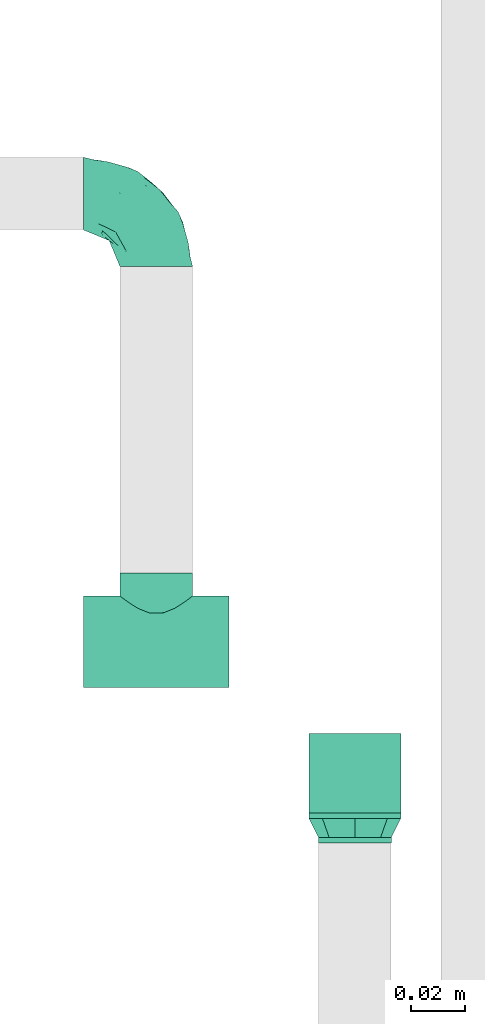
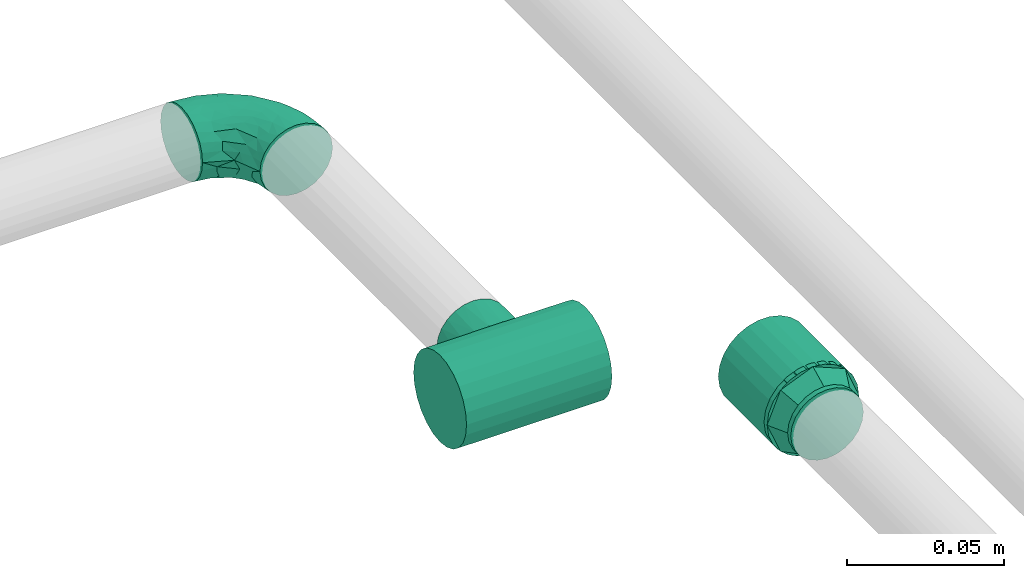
# One storey, part 7 of 13: 3 flow fittings, 1 flow segment.
"""IFC2X3 building model written with IfcOpenShell, lengths in millimetres."""

from ifc_helpers import new_model, entity, si_unit, converted_unit, derived_unit, direction, frame, origin_with_axes, origin_2d_with_axis, place, context, subcontext, project, spatial, hollow_circle, extrude, open_shell, surface_model, source, transform, mapped, type_object, element, save


model = new_model("IFC2X3")

# Units and contexts
model_context = context("Model", 3, precision=0.01, world=frame((0.0, 4.29681676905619e-09, 0.0)), true_north=direction((4.01073788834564e-13, 1.0)))
plan_context = context("Plan", 3, precision=0.01, world=frame((0.0, 4.29681676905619e-09, 0.0)), true_north=direction((4.01073788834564e-13, 1.0)))
body_context = subcontext(model_context, "Body", "Model", "MODEL_VIEW")
ifc_project = project(units=[converted_unit("PLANEANGLEUNIT", "DEGREE", entity("IfcPositiveLengthMeasure", 0.0174532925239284), si_unit("PLANEANGLEUNIT", "RADIAN"), dimensions=[0, 0, 0, 0, 0, 0, 0]), si_unit("AREAUNIT", "SQUARE_METRE"), si_unit("LENGTHUNIT", "METRE", prefix="MILLI"), si_unit("MASSUNIT", "GRAM", prefix="KILO"), si_unit("POWERUNIT", "WATT"), si_unit("PRESSUREUNIT", "PASCAL", prefix="KILO"), si_unit("FORCEUNIT", "NEWTON", prefix="KILO"), si_unit("ELECTRICVOLTAGEUNIT", "VOLT"), si_unit("ELECTRICCURRENTUNIT", "AMPERE"), si_unit("THERMODYNAMICTEMPERATUREUNIT", "DEGREE_CELSIUS"), si_unit("TIMEUNIT", "SECOND"), si_unit("VOLUMEUNIT", "CUBIC_METRE"), derived_unit("LINEARVELOCITYUNIT", [(si_unit("LENGTHUNIT", "METRE"), 1), (si_unit("TIMEUNIT", "SECOND"), -1)]), derived_unit("VOLUMETRICFLOWRATEUNIT", [(si_unit("VOLUMEUNIT", "CUBIC_METRE"), 1), (si_unit("TIMEUNIT", "SECOND"), -1)]), derived_unit("THERMALTRANSMITTANCEUNIT", [(si_unit("POWERUNIT", "WATT"), 1), (si_unit("THERMODYNAMICTEMPERATUREUNIT", "KELVIN"), -1), (si_unit("AREAUNIT", "SQUARE_METRE"), -1)]), derived_unit("SOUNDPRESSUREUNIT", [(si_unit("PRESSUREUNIT", "PASCAL"), 1)])], contexts=[model_context, plan_context])

# Site, building, storey
site_placement = place(None, frame((0.0, -4.29681676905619e-09, 0.0), z_axis=(0.0, 0.0, 1.0), x_axis=(1.0, 0.0, 0.0)))
site = spatial("IfcSite", under=ifc_project, at=site_placement, Name="ENGM", CompositionType="ELEMENT")
building_placement = place(site_placement, frame((0.0, 4.29681676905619e-09, 0.0), z_axis=(0.0, 0.0, 1.0), x_axis=(1.0, 0.0, 0.0)))
building = spatial("IfcBuilding", under=site, at=building_placement, Name="TI", CompositionType="ELEMENT")
storey_placement = place(building_placement, frame((0.0, 0.0, 210900.0), z_axis=(0.0, 0.0, 1.0), x_axis=(1.0, 0.0, 0.0)))
storey = spatial("IfcBuildingStorey", under=building, at=storey_placement, Name="Nivå F", CompositionType="ELEMENT", Elevation=210900.0)

# Flow fittings
pipe_fitting_type_1 = type_object("IfcPipeFittingType", Name="magi_pipe_fe_reducer_centric_short_NOR", PredefinedType="TRANSITION")
shared_shape_1 = source(origin_with_axes(), body_context, "Body", "SurfaceModel", [
    surface_model("IfcShellBasedSurfaceModel", [(-2.0, 11.9501, 11.9501), (-2.0, 0.0, 16.9), (-2.0, 4.37404, 16.32415), (-2.0, 8.45, 14.63583), (-2.0, 14.63583, 8.45), (-2.0, 16.32415, 4.37404), (-2.0, -16.32415, 4.37404), (-2.0, -8.45, 14.63583), (-2.0, -14.63583, 8.45), (-2.0, -11.9501, 11.9501), (-2.0, -4.37404, 16.32415), (-2.0, -16.32415, -4.37404), (-2.0, -16.9, 0.0), (-2.0, -8.45, -14.63583), (-2.0, 16.32415, -4.37404), (-2.0, 11.9501, -11.9501), (-2.0, 14.63583, -8.45), (-2.0, 8.45, -14.63583), (-2.0, 4.37404, -16.32415), (-2.0, 0.0, -16.9), (-2.0, -11.9501, -11.9501), (-2.0, -14.63583, -8.45), (-2.0, -4.37404, -16.32415), (-2.0, 16.9, 0.0), (0.0, 4.37404, -16.32415), (0.0, 8.45, -14.63583), (0.0, 11.9501, -11.9501), (0.0, 0.0, -16.9), (0.0, 16.32415, -4.37404), (0.0, 16.32415, 4.37404), (0.0, 14.63583, -8.45), (0.0, -8.45, -14.63583), (0.0, -4.37404, -16.32415), (0.0, -11.9501, -11.9501), (0.0, -16.32415, -4.37404), (0.0, -14.63583, -8.45), (0.0, -16.32415, 4.37404), (0.0, 16.9, 0.0), (0.0, 14.63583, 8.45), (0.0, 11.9501, 11.9501), (0.0, 4.37404, 16.32415), (0.0, 8.45, 14.63583), (0.0, 0.0, 16.9), (0.0, -14.63583, 8.45), (0.0, -16.9, 0.0), (0.0, -8.45, 14.63583), (0.0, -11.9501, 11.9501), (0.0, -4.37404, 16.32415), (9.0, 12.94341, -3.46818), (9.0, 3.46818, -12.94341), (9.0, 6.7, -11.60474), (9.0, 9.47523, -9.47523), (9.0, -6.7, -11.60474), (9.0, -12.94341, 3.46818), (9.0, 11.60474, -6.7), (9.0, 0.0, -13.4), (9.0, -3.46818, -12.94341), (9.0, -9.47523, -9.47523), (9.0, -12.94341, -3.46818), (9.0, -11.60474, -6.7), (9.0, 13.4, 0.0), (9.0, 12.94341, 3.46818), (9.0, 11.60474, 6.7), (9.0, 9.47523, 9.47523), (9.0, 0.0, 13.4), (9.0, 6.7, 11.60474), (9.0, 3.46818, 12.94341), (9.0, -6.7, 11.60474), (9.0, -9.47523, 9.47523), (9.0, -11.60474, 6.7), (9.0, -13.4, 0.0), (9.0, -3.46818, 12.94341), (7.0, 0.0, 13.4), (7.0, 3.46818, 12.94341), (7.0, 6.7, 11.60474), (7.0, -3.46818, 12.94341), (7.0, 9.47523, 9.47523), (7.0, 11.60474, 6.7), (7.0, 12.94341, 3.46818), (7.0, -12.94341, 3.46818), (7.0, -9.47523, 9.47523), (7.0, -6.7, 11.60474), (7.0, -11.60474, 6.7), (7.0, -12.94341, -3.46818), (7.0, -13.4, 0.0), (7.0, -6.7, -11.60474), (7.0, 12.94341, -3.46818), (7.0, 9.47523, -9.47523), (7.0, 11.60474, -6.7), (7.0, 6.7, -11.60474), (7.0, 3.46818, -12.94341), (7.0, -9.47523, -9.47523), (7.0, -11.60474, -6.7), (7.0, 0.0, -13.4), (7.0, -3.46818, -12.94341), (7.0, 13.4, 0.0), (0.0, 13.18758, -8.96258), (0.0, 14.42505, -5.97505), (7.0, 10.491, -7.02294), (7.0, 11.50677, -4.57065), (0.0, 15.66253, -2.98753), (7.0, 12.45339, -2.28533), (0.0, 2.98753, -15.66253), (0.0, 5.97505, -14.42505), (0.0, 8.96258, -13.18758), (7.0, 4.73762, -11.43761), (7.0, 7.10642, -10.45642), (7.0, 2.36881, -12.41881), (0.0, -14.42505, -5.97505), (7.0, -11.43761, -4.73762), (7.0, -12.41881, -2.36881), (7.0, -2.36881, -12.41881), (7.0, -10.45642, -7.10642), (0.0, -15.70614, -2.88224), (0.0, -13.18758, -8.96258), (7.0, -4.73762, -11.43761), (7.0, -7.10642, -10.45642), (0.0, -5.97505, -14.42505), (0.0, -2.98753, -15.66253), (0.0, -8.96258, -13.18758), (0.0, -13.18758, 8.96258), (0.0, -14.42505, 5.97505), (7.0, -10.491, 7.02294), (7.0, -11.50677, 4.57065), (0.0, -15.66253, 2.98753), (7.0, -12.45339, 2.28533), (0.0, -2.98753, 15.66253), (0.0, -5.97505, 14.42505), (0.0, -8.96258, 13.18758), (7.0, -4.73762, 11.43761), (7.0, -7.10642, 10.45642), (7.0, -2.36881, 12.41881), (0.0, 14.42505, 5.97505), (7.0, 11.43761, 4.73762), (7.0, 12.41881, 2.36881), (7.0, 2.36881, 12.41881), (7.0, 10.45642, 7.10642), (0.0, 15.70614, 2.88224), (0.0, 13.18758, 8.96258), (7.0, 4.73762, 11.43761), (7.0, 7.10642, 10.45642), (0.0, 5.97505, 14.42505), (0.0, 2.98753, 15.66253), (0.0, 8.96258, 13.18758)], [open_shell([[[0, 1, 2]], [[0, 2, 3]], [[0, 4, 5]], [[0, 5, 1]], [[1, 5, 6]], [[7, 8, 9]], [[7, 10, 1]], [[8, 7, 1]], [[1, 6, 8]], [[6, 11, 12]], [[6, 5, 13]], [[5, 14, 15]], [[15, 14, 16]], [[15, 17, 18]], [[13, 5, 15]], [[19, 15, 18]], [[11, 20, 21]], [[20, 11, 13]], [[13, 19, 22]], [[11, 6, 13]], [[15, 19, 13]], [[5, 23, 14]], [[24, 25, 26]], [[27, 24, 26]], [[26, 28, 29]], [[28, 26, 30]], [[26, 29, 31]], [[27, 31, 32]], [[27, 26, 31]], [[33, 34, 35]], [[34, 33, 31]], [[31, 36, 34]], [[29, 28, 37]], [[29, 38, 39]], [[29, 39, 40]], [[40, 36, 31]], [[40, 39, 41]], [[36, 40, 42]], [[42, 43, 36]], [[44, 34, 36]], [[43, 45, 46]], [[43, 42, 45]], [[45, 42, 47]], [[31, 29, 40]], [[11, 34, 12]], [[21, 35, 11]], [[31, 20, 13]], [[21, 20, 33]], [[32, 13, 22]], [[11, 35, 34]], [[34, 44, 12]], [[32, 31, 13]], [[33, 20, 31]], [[33, 35, 21]], [[27, 32, 22]], [[22, 19, 27]], [[18, 24, 19]], [[17, 25, 18]], [[30, 15, 16]], [[17, 15, 26]], [[28, 16, 14]], [[17, 26, 25]], [[25, 24, 18]], [[37, 28, 14]], [[30, 16, 28]], [[30, 26, 15]], [[23, 37, 14]], [[19, 24, 27]], [[5, 29, 23]], [[4, 38, 5]], [[41, 0, 3]], [[4, 0, 39]], [[40, 3, 2]], [[5, 38, 29]], [[29, 37, 23]], [[40, 41, 3]], [[39, 0, 41]], [[39, 38, 4]], [[42, 40, 2]], [[2, 1, 42]], [[10, 47, 1]], [[7, 45, 10]], [[43, 9, 8]], [[7, 9, 46]], [[36, 8, 6]], [[7, 46, 45]], [[45, 47, 10]], [[44, 36, 6]], [[43, 8, 36]], [[43, 46, 9]], [[12, 44, 6]], [[1, 47, 42]], [[33, 44, 27]], [[48, 49, 50]], [[48, 50, 51]], [[52, 49, 53]], [[48, 51, 54]], [[49, 48, 53]], [[55, 52, 56]], [[55, 49, 52]], [[57, 58, 59]], [[53, 58, 57]], [[57, 52, 53]], [[48, 60, 53]], [[61, 62, 63]], [[61, 63, 64]], [[65, 66, 64]], [[65, 64, 63]], [[61, 64, 67]], [[53, 68, 69]], [[70, 58, 53]], [[53, 67, 68]], [[53, 61, 67]], [[71, 67, 64]], [[53, 60, 61]], [[72, 73, 74]], [[75, 72, 74]], [[76, 77, 78]], [[74, 76, 75]], [[78, 79, 76]], [[75, 80, 81]], [[80, 75, 79]], [[80, 79, 82]], [[75, 76, 79]], [[79, 83, 84]], [[79, 78, 85]], [[86, 87, 78]], [[87, 86, 88]], [[89, 85, 78]], [[78, 87, 89]], [[85, 89, 90]], [[83, 91, 92]], [[83, 79, 91]], [[85, 93, 94]], [[79, 85, 91]], [[90, 93, 85]], [[95, 86, 78]], [[83, 58, 84]], [[92, 59, 83]], [[52, 91, 85]], [[92, 91, 57]], [[56, 85, 94]], [[83, 59, 58]], [[58, 70, 84]], [[56, 52, 85]], [[57, 91, 52]], [[57, 59, 92]], [[55, 56, 94]], [[94, 93, 55]], [[90, 49, 93]], [[89, 50, 90]], [[54, 87, 88]], [[89, 87, 51]], [[48, 88, 86]], [[89, 51, 50]], [[50, 49, 90]], [[60, 48, 86]], [[54, 88, 48]], [[54, 51, 87]], [[95, 60, 86]], [[93, 49, 55]], [[78, 61, 95]], [[77, 62, 78]], [[65, 76, 74]], [[77, 76, 63]], [[66, 74, 73]], [[78, 62, 61]], [[61, 60, 95]], [[66, 65, 74]], [[63, 76, 65]], [[63, 62, 77]], [[64, 66, 73]], [[73, 72, 64]], [[75, 71, 72]], [[81, 67, 75]], [[69, 80, 82]], [[81, 80, 68]], [[53, 82, 79]], [[81, 68, 67]], [[67, 71, 75]], [[70, 53, 79]], [[69, 82, 53]], [[69, 68, 80]], [[84, 70, 79]], [[72, 71, 64]], [[72, 80, 95]], [[95, 76, 72]], [[80, 91, 95]], [[91, 93, 95]], [[87, 95, 93]], [[80, 84, 91]], [[42, 39, 46]], [[44, 46, 39]], [[39, 27, 44]], [[26, 27, 39]], [[39, 37, 26]], [[96, 97, 98]], [[99, 100, 101]], [[37, 95, 101]], [[93, 27, 102]], [[103, 104, 105]], [[104, 26, 106]], [[87, 26, 96]], [[103, 107, 102]], [[108, 109, 110]], [[37, 101, 100]], [[27, 93, 111]], [[112, 33, 91]], [[110, 84, 113]], [[109, 114, 112]], [[33, 112, 114]], [[115, 116, 117]], [[115, 118, 111]], [[93, 102, 107]], [[116, 91, 119]], [[27, 111, 118]], [[97, 99, 98]], [[87, 96, 98]], [[100, 99, 97]], [[26, 87, 106]], [[105, 104, 106]], [[107, 103, 105]], [[84, 44, 113]], [[108, 110, 113]], [[114, 109, 108]], [[91, 33, 119]], [[117, 116, 119]], [[118, 115, 117]], [[120, 121, 122]], [[123, 124, 125]], [[44, 84, 125]], [[72, 42, 126]], [[127, 128, 129]], [[128, 46, 130]], [[80, 46, 120]], [[127, 131, 126]], [[132, 133, 134]], [[44, 125, 124]], [[42, 72, 135]], [[136, 39, 76]], [[134, 95, 137]], [[133, 138, 136]], [[39, 136, 138]], [[139, 140, 141]], [[139, 142, 135]], [[72, 126, 131]], [[140, 76, 143]], [[42, 135, 142]], [[121, 123, 122]], [[80, 120, 122]], [[124, 123, 121]], [[46, 80, 130]], [[129, 128, 130]], [[131, 127, 129]], [[95, 37, 137]], [[132, 134, 137]], [[138, 133, 132]], [[76, 39, 143]], [[141, 140, 143]], [[142, 139, 141]]])]),
])
flow_fitting_1_placement = place(storey_placement, frame((598816.17776, 570658.24678, -48.6000000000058), z_axis=(0.0, 0.0, 1.0), x_axis=(0.0, -1.0, 0.0)))
element("IfcFlowFitting", 1, at=flow_fitting_1_placement, inside=storey, type_object=pipe_fitting_type_1, Name="magi_pipe_fe_reducer_centric_short_NOR", context=body_context, shape_type="MappedRepresentation", body=[
    mapped(shared_shape_1, transform((0.0, 0.0, 0.0), scale=1.0)),
])
pipe_fitting_type_2 = type_object("IfcPipeFittingType", Name="magi_pipe_fe_tee_centric_90_NOR", PredefinedType="JUNCTION")
shared_shape_2 = source(origin_with_axes(), body_context, "Body", "SurfaceModel", [
    surface_model("IfcShellBasedSurfaceModel", [(-26.8, -14.63583, -8.45), (-26.8, -16.32415, 4.37404), (-26.8, 0.0, -16.9), (-26.8, 8.45, -14.63583), (-26.8, 4.37404, -16.32415), (-26.8, 14.63583, -8.45), (-26.8, 16.32415, -4.37404), (-26.8, 11.9501, -11.9501), (-26.8, 8.45, 14.63583), (-26.8, -4.37404, -16.32415), (-26.8, -8.45, -14.63583), (-26.8, -11.9501, -11.9501), (-26.8, -16.32415, -4.37404), (-26.8, -16.9, 0.0), (-26.8, 16.32415, 4.37404), (-26.8, 14.63583, 8.45), (-26.8, -8.45, 14.63583), (-26.8, 11.9501, 11.9501), (-26.8, 4.37404, 16.32415), (-26.8, 0.0, 16.9), (-26.8, -11.9501, 11.9501), (-26.8, -14.63583, 8.45), (-26.8, -4.37404, 16.32415), (-26.8, 16.9, 0.0), (26.8, 4.37404, -16.32415), (26.8, -16.32415, -4.37404), (26.8, 0.0, -16.9), (26.8, 14.63583, -8.45), (26.8, 8.45, -14.63583), (26.8, 8.45, 14.63583), (26.8, 11.9501, -11.9501), (26.8, -8.45, -14.63583), (26.8, -4.37404, -16.32415), (26.8, -11.9501, -11.9501), (26.8, -14.63583, -8.45), (26.8, -16.9, 0.0), (26.8, 16.32415, -4.37404), (26.8, 16.32415, 4.37404), (26.8, 14.63583, 8.45), (26.8, -16.32415, 4.37404), (26.8, 11.9501, 11.9501), (26.8, -8.45, 14.63583), (26.8, 4.37404, 16.32415), (26.8, -14.63583, 8.45), (26.8, -11.9501, 11.9501), (26.8, 0.0, 16.9), (26.8, -4.37404, 16.32415), (26.8, 16.9, 0.0), (13.4, -16.9, 0.0), (12.51826, -16.20978, 4.7805), (10.16237, -14.46802, 8.7342), (6.75997, -12.31857, 11.56991), (2.4399, -10.58315, 13.176), (-13.4, -16.9, 0.0), (-12.51876, -16.21016, 4.7792), (-6.76097, -12.31912, 11.56932), (-2.44418, -10.58414, 13.1752), (-10.16446, -14.46949, 8.73177), (2.4399, -10.58315, -13.176), (10.16237, -14.46802, -8.7342), (6.75997, -12.31857, -11.56991), (12.51826, -16.20978, -4.7805), (-2.44418, -10.58414, -13.1752), (-6.76097, -12.31912, -11.56932), (-10.16446, -14.46949, -8.73177), (-12.51876, -16.21016, -4.7792), (9.47523, -25.35, -9.47523), (0.0, -25.35, -13.4), (3.46818, -25.35, -12.94341), (6.7, -25.35, -11.60474), (11.60474, -25.35, -6.7), (12.94341, -25.35, -3.46818), (-12.94341, -25.35, 3.46818), (-12.94341, -25.35, -3.46818), (-3.46818, -25.35, -12.94341), (-9.47523, -25.35, -9.47523), (-6.7, -25.35, -11.60474), (-11.60474, -25.35, -6.7), (-13.4, -25.35, 0.0), (13.4, -25.35, 0.0), (12.94341, -25.35, 3.46818), (11.60474, -25.35, 6.7), (6.7, -25.35, 11.60474), (9.47523, -25.35, 9.47523), (3.46818, -25.35, 12.94341), (-9.47523, -25.35, 9.47523), (-11.60474, -25.35, 6.7), (-6.7, -25.35, 11.60474), (-3.46818, -25.35, 12.94341), (0.0, -25.35, 13.4), (-12.95938, -16.55508, 2.3896), (12.95913, -16.55489, 2.39025), (-0.00214, -10.58364, 13.1756), (12.95913, -16.55489, -2.39025), (-0.00214, -10.58364, -13.1756), (-12.95938, -16.55508, -2.3896)], [open_shell([[[0, 1, 2]], [[3, 4, 5]], [[4, 6, 5]], [[7, 3, 5]], [[8, 4, 2]], [[9, 10, 2]], [[10, 11, 2]], [[12, 13, 0]], [[0, 2, 11]], [[13, 1, 0]], [[8, 6, 4]], [[8, 14, 6]], [[15, 14, 8]], [[2, 16, 8]], [[17, 15, 8]], [[18, 8, 19]], [[20, 16, 21]], [[1, 21, 16]], [[22, 19, 16]], [[16, 2, 1]], [[16, 19, 8]], [[6, 14, 23]], [[24, 25, 26]], [[27, 24, 28]], [[25, 24, 29]], [[27, 28, 30]], [[29, 24, 27]], [[26, 31, 32]], [[26, 33, 31]], [[26, 25, 34]], [[34, 33, 26]], [[35, 25, 29]], [[27, 36, 37]], [[27, 37, 29]], [[29, 37, 38]], [[29, 39, 35]], [[29, 38, 40]], [[41, 29, 42]], [[43, 41, 44]], [[41, 43, 39]], [[41, 45, 46]], [[41, 39, 29]], [[42, 45, 41]], [[36, 47, 37]], [[35, 39, 48]], [[49, 48, 39]], [[39, 43, 49]], [[43, 44, 50]], [[51, 50, 44]], [[52, 51, 44]], [[44, 41, 52]], [[43, 50, 49]], [[53, 54, 1]], [[1, 13, 53]], [[54, 21, 1]], [[55, 56, 20]], [[21, 57, 20]], [[57, 21, 54]], [[20, 57, 55]], [[56, 16, 20]], [[52, 16, 56]], [[19, 46, 45]], [[22, 41, 46]], [[18, 45, 42]], [[38, 37, 14]], [[17, 29, 40]], [[15, 40, 38]], [[42, 29, 8]], [[23, 37, 47]], [[16, 41, 22]], [[22, 46, 19]], [[18, 19, 45]], [[42, 8, 18]], [[8, 29, 17]], [[15, 17, 40]], [[14, 15, 38]], [[37, 23, 14]], [[41, 16, 52]], [[23, 47, 36]], [[27, 30, 7]], [[6, 36, 27]], [[26, 32, 9]], [[4, 28, 24]], [[26, 2, 24]], [[30, 28, 3]], [[10, 32, 31]], [[5, 6, 27]], [[23, 36, 6]], [[27, 7, 5]], [[7, 30, 3]], [[3, 28, 4]], [[2, 4, 24]], [[9, 2, 26]], [[32, 10, 9]], [[31, 58, 10]], [[33, 59, 60]], [[59, 33, 34]], [[60, 58, 33]], [[33, 58, 31]], [[25, 35, 48]], [[25, 61, 34]], [[61, 25, 48]], [[34, 61, 59]], [[62, 63, 11]], [[11, 64, 0]], [[64, 11, 63]], [[62, 11, 10]], [[65, 53, 12]], [[65, 12, 0]], [[12, 53, 13]], [[65, 0, 64]], [[58, 62, 10]], [[66, 67, 68]], [[66, 68, 69]], [[66, 70, 71]], [[67, 66, 72]], [[72, 73, 67]], [[74, 75, 76]], [[74, 67, 75]], [[77, 75, 67]], [[67, 73, 77]], [[73, 72, 78]], [[72, 66, 71]], [[79, 80, 81]], [[81, 82, 71]], [[82, 72, 71]], [[82, 81, 83]], [[72, 82, 84]], [[72, 85, 86]], [[85, 72, 87]], [[72, 88, 87]], [[88, 72, 89]], [[72, 84, 89]], [[71, 79, 81]], [[72, 90, 78]], [[57, 86, 85]], [[72, 86, 54]], [[85, 87, 55]], [[72, 54, 90]], [[90, 53, 78]], [[54, 86, 57]], [[91, 49, 80]], [[55, 88, 56]], [[55, 57, 85]], [[89, 52, 92]], [[55, 87, 88]], [[52, 89, 84]], [[82, 51, 84]], [[50, 83, 81]], [[82, 83, 51]], [[49, 81, 80]], [[83, 50, 51]], [[51, 52, 84]], [[79, 91, 80]], [[49, 50, 81]], [[91, 79, 48]], [[89, 56, 88]], [[92, 56, 89]], [[71, 93, 79]], [[59, 70, 66]], [[71, 70, 61]], [[66, 69, 60]], [[93, 48, 79]], [[61, 70, 59]], [[60, 68, 58]], [[60, 59, 66]], [[67, 62, 94]], [[60, 69, 68]], [[67, 74, 62]], [[95, 78, 53]], [[63, 74, 76]], [[65, 77, 73]], [[95, 65, 73]], [[67, 58, 68]], [[71, 61, 93]], [[74, 63, 62]], [[63, 76, 75]], [[63, 75, 64]], [[64, 75, 77]], [[64, 77, 65]], [[78, 95, 73]], [[94, 58, 67]]])]),
])
flow_fitting_2_placement = place(storey_placement, frame((598743.07776, 570723.24678, -48.6000000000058), z_axis=(0.0, 0.0, 1.0), x_axis=(-1.0, 0.0, 0.0)))
element("IfcFlowFitting", 2, at=flow_fitting_2_placement, inside=storey, type_object=pipe_fitting_type_2, Name="magi_pipe_fe_tee_centric_90_NOR", context=body_context, shape_type="MappedRepresentation", body=[
    mapped(shared_shape_2, transform((0.0, 0.0, 0.0), scale=1.0)),
])
pipe_fitting_type_3 = type_object("IfcPipeFittingType", Name="magi_pipe_fe_elbow_short_001", PredefinedType="BEND")
shared_shape_3 = source(origin_with_axes(), body_context, "Body", "SurfaceModel", [
    surface_model("IfcShellBasedSurfaceModel", [(-26.8, 3.46818, -12.94341), (-26.8, 0.0, -13.4), (-26.8, 9.47523, -9.47523), (-26.8, 6.7, -11.60474), (-26.8, 12.94341, -3.46818), (-26.8, 11.60474, -6.7), (-26.8, -6.7, 11.60474), (-26.8, -12.94341, -3.46818), (-26.8, -9.47523, -9.47523), (-26.8, -6.7, -11.60474), (-26.8, -3.46818, -12.94341), (-26.8, -11.60474, -6.7), (-26.8, -13.4, 0.0), (-26.8, 9.47523, 9.47523), (-26.8, 12.94341, 3.46818), (-26.8, 11.60474, 6.7), (-26.8, 3.46818, 12.94341), (-26.8, 6.7, 11.60474), (-26.8, -11.60474, 6.7), (-26.8, -9.47523, 9.47523), (-26.8, -12.94341, 3.46818), (-26.8, -3.46818, 12.94341), (-26.8, 0.0, 13.4), (-26.8, 13.4, 0.0), (-9.47523, 26.8, -9.47523), (0.0, 26.8, -13.4), (-3.46818, 26.8, -12.94341), (-6.7, 26.8, -11.60474), (-11.60474, 26.8, -6.7), (-12.94341, 26.8, -3.46818), (12.94341, 26.8, -3.46818), (6.7, 26.8, 11.60474), (6.7, 26.8, -11.60474), (9.47523, 26.8, -9.47523), (3.46818, 26.8, -12.94341), (11.60474, 26.8, -6.7), (13.4, 26.8, 0.0), (-12.94341, 26.8, 3.46818), (-9.47523, 26.8, 9.47523), (-11.60474, 26.8, 6.7), (-6.7, 26.8, 11.60474), (-3.46818, 26.8, 12.94341), (12.94341, 26.8, 3.46818), (9.47523, 26.8, 9.47523), (11.60474, 26.8, 6.7), (3.46818, 26.8, 12.94341), (0.0, 26.8, 13.4), (-13.4, 26.8, 0.0), (-17.94383, -11.72186, 4.19396), (-19.61933, -10.40522, 7.51874), (-14.00394, -9.97131, 0.0), (-10.88146, -9.75217, 2.96415), (5.6402, 4.14256, 4.06277), (2.9355, 3.86758, 7.99817), (-0.16552, -0.70254, 6.90229), (-11.69279, -8.47867, 6.74741), (-3.60975, -5.23517, 4.12915), (-20.40197, -11.68565, 0.0), (6.07727, 10.7767, 9.16668), (7.71917, 17.5318, 9.98024), (3.23022, 10.34855, 11.14395), (-17.5318, -7.71917, 9.98024), (-19.6814, -5.06542, 12.05518), (-20.47091, -1.77513, 13.17083), (-18.76435, 2.05404, 13.37716), (-10.34855, -3.23022, 11.14395), (-13.34095, -0.12025, 12.98799), (-20.6562, 5.25542, 12.65822), (-21.01515, 11.15223, 8.78653), (-19.1981, 14.0055, 6.12639), (-23.45804, 12.58298, 5.55254), (-13.79572, 19.62699, 6.0655), (-4.65712, 13.17755, 13.37596), (-9.92557, 9.92557, 13.07441), (-7.97904, 5.85569, 13.33097), (-14.12498, 14.96497, 9.49183), (-23.18377, 8.11481, 10.91864), (-3.49778, 8.97497, 13.15743), (-6.65819, 2.45826, 12.5129), (-1.36893, 7.23965, 12.31444), (-22.3163, 13.71444, 3.37662), (-20.76788, 15.89859, 0.0), (-5.00198, 23.11411, 12.55149), (-1.83653, 20.04451, 13.36709), (5.06542, 19.6814, 12.05518), (-4.60225, -3.19632, 8.30444), (-2.39362, 2.39362, 10.95564), (1.77513, 20.47091, 13.17083), (10.40522, 19.61933, 7.51874), (8.47867, 11.69279, 6.74741), (11.72186, 17.94383, 4.19396), (-10.7767, -6.07727, 9.16668), (-14.71477, 20.20527, 3.11661), (-18.32912, 15.92283, 3.19527), (9.75217, 10.88146, 2.96415), (9.97131, 14.00394, 0.0), (11.68565, 20.40197, 0.0), (-17.32477, 17.32477, 0.0), (8.01422, 6.7, 0.0), (-11.0099, 17.80242, 10.25412), (-8.46783, 20.75346, 11.10693), (-11.06207, 21.36651, 8.74797), (-10.13559, 14.48567, 11.94159), (-5.79525, 18.15733, 12.76163), (-14.31139, 12.02432, 11.13575), (-6.7, -8.01422, 0.0), (-14.72492, 5.73985, 13.1602), (-13.14892, 3.28357, 13.39428), (-14.24576, 9.09225, 12.39421), (-7.80572, 13.90987, 12.83655), (0.12025, 13.34095, 12.98799), (-18.45241, 9.09615, 11.28418), (-1.02036, 0.84565, 9.15855), (-3.66591, -4.13183, 6.30134), (-3.02144, -4.33567, 0.0), (1.56761, -1.1228, 3.23127), (-15.89859, 20.76788, 0.0), (4.33567, 3.02144, 0.0), (0.65711, -0.65711, 0.0), (-21.21323, 1.69434, -13.35639), (-11.59215, 19.61477, -8.94181), (-19.9553, -12.05444, -4.41231), (-20.61911, 5.26132, -12.65979), (-18.29002, 15.89425, -3.37935), (-10.94714, -3.38176, -11.24231), (-11.6358, -0.16715, -12.74497), (-5.38395, -0.22423, -10.97991), (-19.45447, 8.78609, -11.20697), (-21.18665, 11.10723, -8.76769), (8.05635, 19.80434, -10.14754), (-16.16073, 12.27967, -10.10626), (-10.65974, -9.81032, -2.24682), (-4.63434, -6.26604, -3.21731), (-12.41035, 15.57424, -10.31822), (-9.54276, 16.38525, -11.6371), (-12.38435, 12.38435, -11.76567), (-1.18054, -2.52878, -5.66699), (1.17703, 2.36499, -8.51656), (4.94456, 3.94062, -5.27361), (-13.23013, 7.7548, -12.95755), (-18.92609, -10.30887, -7.4546), (-19.80434, -8.05635, -10.14754), (-5.46999, 19.49566, -12.70683), (12.05444, 19.9553, -4.41231), (-22.63124, -5.28269, -12.19553), (-11.57403, -7.91736, -7.4927), (-10.00514, -5.4662, -9.37392), (0.56412, 6.29454, -11.17498), (0.16715, 11.6358, -12.74497), (2.76952, 11.43973, -11.70622), (-22.71135, 13.83144, -2.294), (-13.13887, 21.26515, -5.84046), (-14.02683, 21.74629, -2.98452), (10.30887, 18.92609, -7.4546), (-4.73052, 4.73052, -12.6532), (-16.28385, 15.93209, -6.57302), (-1.69434, 21.21323, -13.35639), (-8.4106, 21.03687, -11.08508), (1.68957, 19.74249, -13.15499), (5.28269, 22.63124, -12.19553), (-19.74249, -1.68957, -13.15499), (-16.96978, -4.62448, -11.91765), (-3.16773, 14.76219, -13.39711), (-7.24575, 7.81916, -13.39239), (-7.92886, 12.7032, -13.00116), (-6.57993, -6.26304, -6.05124), (9.46363, 9.95483, -2.39006), (6.59847, 4.89531, -2.6225), (0.29079, -2.47661, -2.876), (-21.42347, 13.17132, -5.65321), (9.35918, 11.66841, -5.08525), (8.33374, 12.94014, -7.69724), (5.4662, 10.00514, -9.37392), (4.62448, 16.96978, -11.91765), (-3.89324, -2.60816, -8.35445), (5.97121, 7.49007, -7.29975), (-14.76219, 3.16773, -13.39711), (-15.36238, 22.06238, 0.0), (-11.66841, -9.35918, -5.08525), (3.63632, 1.19488, -3.35093), (-14.94382, 15.17624, -8.6945)], [open_shell([[[0, 1, 2]], [[3, 0, 2]], [[4, 5, 2]], [[1, 4, 2]], [[6, 1, 7]], [[8, 7, 9]], [[1, 10, 9]], [[11, 7, 8]], [[9, 7, 1]], [[12, 6, 7]], [[4, 1, 6]], [[13, 14, 4]], [[15, 14, 13]], [[16, 17, 13]], [[13, 4, 16]], [[4, 6, 16]], [[18, 19, 20]], [[19, 12, 20]], [[6, 21, 16]], [[19, 6, 12]], [[16, 21, 22]], [[23, 4, 14]], [[24, 25, 26]], [[24, 26, 27]], [[24, 28, 29]], [[24, 29, 25]], [[30, 25, 31]], [[32, 30, 33]], [[32, 34, 25]], [[33, 30, 35]], [[25, 30, 32]], [[30, 31, 36]], [[31, 25, 29]], [[29, 37, 38]], [[38, 37, 39]], [[38, 40, 41]], [[41, 29, 38]], [[41, 31, 29]], [[42, 43, 44]], [[42, 36, 43]], [[41, 45, 31]], [[36, 31, 43]], [[46, 45, 41]], [[37, 29, 47]], [[48, 49, 18]], [[48, 50, 51]], [[52, 53, 54]], [[55, 51, 56]], [[49, 19, 18]], [[57, 48, 20]], [[58, 59, 60]], [[61, 6, 19]], [[61, 62, 6]], [[22, 63, 64]], [[62, 65, 66]], [[59, 43, 31]], [[22, 21, 63]], [[67, 17, 16]], [[68, 69, 70]], [[39, 37, 71]], [[72, 73, 74]], [[69, 68, 75]], [[22, 64, 16]], [[17, 76, 13]], [[15, 13, 68]], [[77, 78, 79]], [[80, 81, 23]], [[41, 82, 83]], [[31, 84, 59]], [[85, 86, 65]], [[45, 46, 87]], [[88, 89, 90]], [[91, 65, 61]], [[46, 41, 83]], [[71, 92, 93]], [[90, 94, 95]], [[84, 31, 45]], [[88, 90, 44]], [[59, 84, 60]], [[42, 44, 90]], [[75, 71, 69]], [[6, 62, 21]], [[90, 96, 42]], [[97, 81, 93]], [[94, 98, 95]], [[92, 97, 93]], [[50, 48, 57]], [[70, 14, 15]], [[99, 100, 101]], [[38, 101, 100]], [[40, 38, 100]], [[102, 103, 100]], [[103, 72, 83]], [[82, 100, 103]], [[82, 41, 40]], [[99, 104, 102]], [[23, 14, 80]], [[67, 16, 64]], [[51, 50, 105]], [[48, 18, 20]], [[49, 55, 61]], [[44, 43, 88]], [[89, 52, 94]], [[106, 107, 74]], [[108, 67, 106]], [[38, 39, 101]], [[109, 102, 73]], [[103, 109, 72]], [[87, 83, 110]], [[76, 68, 13]], [[68, 111, 104]], [[65, 62, 61]], [[63, 62, 66]], [[91, 61, 55]], [[65, 86, 78]], [[87, 84, 45]], [[110, 79, 60]], [[110, 60, 84]], [[86, 112, 60]], [[55, 49, 48]], [[61, 19, 49]], [[43, 59, 88]], [[89, 88, 59]], [[106, 67, 64]], [[76, 67, 111]], [[53, 52, 89]], [[112, 86, 85]], [[56, 113, 55]], [[112, 54, 53]], [[58, 89, 59]], [[56, 51, 105]], [[114, 115, 56]], [[14, 70, 80]], [[69, 71, 93]], [[47, 116, 92]], [[92, 116, 97]], [[39, 71, 101]], [[75, 101, 71]], [[99, 102, 100]], [[108, 104, 111]], [[106, 74, 73]], [[110, 83, 72]], [[78, 74, 66]], [[72, 74, 77]], [[83, 87, 46]], [[84, 87, 110]], [[62, 63, 21]], [[64, 63, 66]], [[20, 12, 57]], [[96, 90, 95]], [[96, 36, 42]], [[115, 117, 52]], [[56, 105, 114]], [[55, 48, 51]], [[89, 94, 90]], [[52, 98, 94]], [[106, 64, 107]], [[108, 106, 73]], [[102, 108, 73]], [[67, 108, 111]], [[102, 104, 108]], [[68, 104, 75]], [[64, 66, 107]], [[66, 74, 107]], [[65, 78, 66]], [[79, 78, 86]], [[60, 79, 86]], [[77, 79, 110]], [[72, 77, 110]], [[78, 77, 74]], [[67, 76, 17]], [[68, 76, 111]], [[100, 82, 40]], [[83, 82, 103]], [[68, 70, 15]], [[80, 69, 93]], [[69, 80, 70]], [[80, 93, 81]], [[55, 85, 91]], [[85, 65, 91]], [[60, 53, 58]], [[53, 89, 58]], [[54, 112, 85]], [[60, 112, 53]], [[85, 113, 54]], [[113, 115, 54]], [[55, 113, 85]], [[115, 113, 56]], [[71, 37, 92]], [[115, 114, 118]], [[47, 92, 37]], [[101, 75, 99]], [[99, 75, 104]], [[72, 109, 73]], [[103, 102, 109]], [[54, 115, 52]], [[117, 115, 118]], [[117, 98, 52]], [[0, 119, 1]], [[28, 24, 120]], [[121, 57, 7]], [[3, 122, 0]], [[97, 123, 81]], [[124, 125, 126]], [[127, 2, 128]], [[33, 129, 32]], [[127, 128, 130]], [[131, 132, 105]], [[133, 134, 135]], [[127, 3, 2]], [[136, 137, 138]], [[139, 122, 127]], [[2, 5, 128]], [[11, 140, 121]], [[141, 140, 8]], [[26, 142, 27]], [[95, 143, 96]], [[144, 9, 10]], [[145, 141, 146]], [[30, 36, 96]], [[147, 148, 149]], [[140, 11, 8]], [[23, 81, 150]], [[130, 133, 135]], [[151, 152, 29]], [[153, 35, 143]], [[147, 154, 148]], [[29, 28, 151]], [[120, 155, 151]], [[33, 153, 129]], [[25, 156, 26]], [[26, 156, 142]], [[143, 35, 30]], [[24, 27, 157]], [[123, 152, 155]], [[158, 34, 159]], [[144, 160, 161]], [[122, 3, 127]], [[148, 162, 158]], [[157, 27, 142]], [[162, 163, 164]], [[159, 34, 32]], [[165, 136, 132]], [[35, 153, 33]], [[166, 98, 167]], [[160, 10, 1]], [[161, 160, 125]], [[95, 166, 143]], [[50, 131, 105]], [[121, 7, 11]], [[168, 114, 132]], [[150, 169, 4]], [[167, 98, 117]], [[34, 158, 25]], [[164, 142, 162]], [[133, 157, 134]], [[8, 9, 141]], [[165, 145, 146]], [[170, 171, 153]], [[129, 172, 173]], [[126, 137, 174]], [[175, 137, 172]], [[148, 158, 173]], [[156, 158, 162]], [[149, 172, 147]], [[148, 154, 163]], [[119, 160, 1]], [[176, 163, 125]], [[176, 125, 160]], [[125, 154, 126]], [[169, 128, 5]], [[127, 130, 135]], [[139, 127, 135]], [[119, 122, 176]], [[120, 151, 28]], [[152, 97, 177]], [[142, 164, 134]], [[120, 24, 157]], [[152, 47, 29]], [[81, 123, 150]], [[123, 155, 169]], [[152, 123, 97]], [[140, 178, 121]], [[121, 178, 131]], [[144, 141, 9]], [[146, 141, 161]], [[30, 96, 143]], [[170, 153, 143]], [[129, 153, 171]], [[159, 129, 173]], [[137, 147, 172]], [[126, 154, 147]], [[172, 171, 175]], [[174, 137, 136]], [[137, 126, 147]], [[126, 146, 124]], [[117, 118, 179]], [[179, 138, 167]], [[128, 169, 155]], [[5, 4, 169]], [[57, 121, 50]], [[57, 12, 7]], [[122, 119, 0]], [[160, 119, 176]], [[158, 156, 25]], [[142, 156, 162]], [[162, 148, 163]], [[139, 135, 164]], [[125, 163, 154]], [[139, 163, 176]], [[163, 139, 164]], [[122, 139, 176]], [[155, 180, 128]], [[180, 120, 133]], [[180, 133, 130]], [[157, 133, 120]], [[142, 134, 157]], [[164, 135, 134]], [[128, 180, 130]], [[120, 180, 155]], [[152, 151, 155]], [[47, 152, 177]], [[169, 150, 123]], [[23, 150, 4]], [[121, 131, 50]], [[178, 165, 132]], [[178, 132, 131]], [[168, 132, 136]], [[145, 165, 178]], [[174, 165, 146]], [[178, 140, 145]], [[141, 145, 140]], [[179, 136, 138]], [[170, 166, 167]], [[168, 179, 118]], [[170, 167, 138]], [[143, 166, 170]], [[95, 98, 166]], [[117, 179, 167]], [[136, 179, 168]], [[129, 159, 32]], [[158, 159, 173]], [[160, 144, 10]], [[141, 144, 161]], [[175, 170, 138]], [[129, 171, 172]], [[170, 175, 171]], [[137, 175, 138]], [[148, 173, 149]], [[172, 149, 173]], [[165, 174, 136]], [[126, 174, 146]], [[146, 161, 124]], [[125, 124, 161]], [[114, 168, 118]], [[114, 105, 132]]])]),
])
flow_fitting_3_placement = place(storey_placement, frame((598743.07776, 570888.24678, -48.6000000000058), z_axis=(0.0, 0.0, 1.0), x_axis=(0.0, 1.0, 0.0)))
element("IfcFlowFitting", 3, at=flow_fitting_3_placement, inside=storey, type_object=pipe_fitting_type_3, Name="magi_pipe_fe_elbow_short_001", context=body_context, shape_type="MappedRepresentation", body=[
    mapped(shared_shape_3, transform((0.0, 0.0, 0.0), scale=1.0)),
])

# Flow segment
pipe_segment_type = type_object("IfcPipeSegmentType", Name="Stålrør normaltykke", PredefinedType="RIGIDSEGMENT")
shared_shape_4 = source(origin_with_axes(), body_context, "Body", "SweptSolid", [
    extrude(hollow_circle(Radius=16.9, WallThickness=2.0, at=origin_2d_with_axis()), frame((0.0, 0.0, 0.0), z_axis=(1.0, 0.0, 0.0), x_axis=(0.0, 1.0, 0.0)), (0.0, 0.0, 1.0), 31.2),
])
flow_segment_placement = place(storey_placement, frame((598816.17776, 570689.44678, -48.6000000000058), z_axis=(0.0, 0.0, 1.0), x_axis=(0.0, -1.0, 0.0)))
element("IfcFlowSegment", 4, at=flow_segment_placement, inside=storey, type_object=pipe_segment_type, Name="Stålrør normaltykke", context=body_context, shape_type="MappedRepresentation", body=[
    mapped(shared_shape_4, transform((0.0, 0.0, 0.0), scale=1.0)),
])

save(model, "model.ifc")
